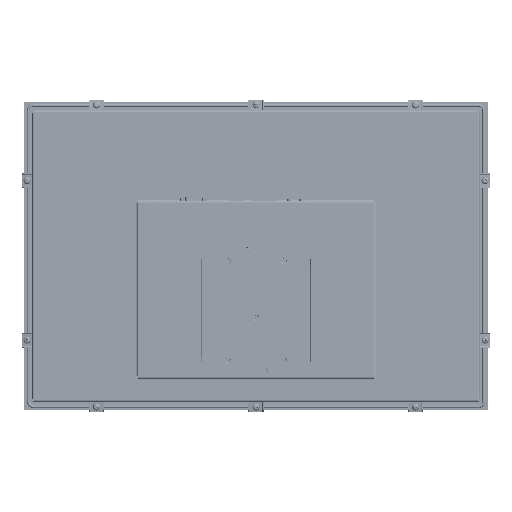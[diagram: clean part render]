
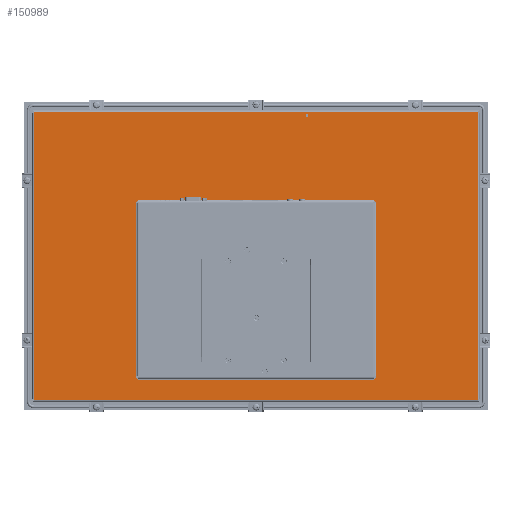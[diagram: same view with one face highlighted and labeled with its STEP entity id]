
A CAD part, front view. The second image highlights one B-rep face of the part: STEP entity #150989.
In plain terms, the highlighted planar face has unit normal (0, -1, 0).
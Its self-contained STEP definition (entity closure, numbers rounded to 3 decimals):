
#2499 = DIRECTION ( 'NONE',  ( 0., 0., -1. ) ) ;
#2583 = LINE ( 'NONE', #118642, #101157 ) ;
#5312 = ORIENTED_EDGE ( 'NONE', *, *, #78977, .T. ) ;
#8588 = ORIENTED_EDGE ( 'NONE', *, *, #181386, .T. ) ;
#9871 = LINE ( 'NONE', #125981, #124488 ) ;
#11561 = AXIS2_PLACEMENT_3D ( 'NONE', #110765, #24146, #139305 ) ;
#11647 = DIRECTION ( 'NONE',  ( 0., 0., 1. ) ) ;
#13027 = CARTESIAN_POINT ( 'NONE',  ( 135.25, -10.6, -132.548 ) ) ;
#13336 = VERTEX_POINT ( 'NONE', #170618 ) ;
#13895 = CARTESIAN_POINT ( 'NONE',  ( -250.7, -10.6, 4.952 ) ) ;
#15431 = EDGE_LOOP ( 'NONE', ( #36998, #8588, #166087, #131293, #26841, #135208, #142511, #65103 ) ) ;
#15572 = LINE ( 'NONE', #73608, #87065 ) ;
#17658 = CARTESIAN_POINT ( 'NONE',  ( -250.7, -10.6, 167.652 ) ) ;
#17667 = CARTESIAN_POINT ( 'NONE',  ( -135.25, -10.6, 65.952 ) ) ;
#17793 = LINE ( 'NONE', #130045, #25601 ) ;
#19127 = LINE ( 'NONE', #22864, #145758 ) ;
#19524 = EDGE_CURVE ( 'NONE', #182403, #146964, #147165, .T. ) ;
#19900 = VERTEX_POINT ( 'NONE', #179228 ) ;
#20640 = VECTOR ( 'NONE', #11647, 1000. ) ;
#21362 = FACE_OUTER_BOUND ( 'NONE', #15431, .T. ) ;
#22864 = CARTESIAN_POINT ( 'NONE',  ( 136.375, -10.6, -131.423 ) ) ;
#23468 = VECTOR ( 'NONE', #27249, 1000. ) ;
#23832 = VECTOR ( 'NONE', #2499, 1000. ) ;
#24146 = DIRECTION ( 'NONE',  ( 0., 1., 0. ) ) ;
#25513 = VERTEX_POINT ( 'NONE', #142668 ) ;
#25601 = VECTOR ( 'NONE', #118625, 1000. ) ;
#25687 = CARTESIAN_POINT ( 'NONE',  ( -250.7, -10.6, 4.952 ) ) ;
#26841 = ORIENTED_EDGE ( 'NONE', *, *, #19524, .T. ) ;
#27249 = DIRECTION ( 'NONE',  ( 0., 0., -1. ) ) ;
#35201 = VERTEX_POINT ( 'NONE', #38470 ) ;
#36321 = VECTOR ( 'NONE', #174643, 1000. ) ;
#36941 = EDGE_LOOP ( 'NONE', ( #46937, #5312, #59018, #74881, #155413, #84940, #151990, #49820 ) ) ;
#36998 = ORIENTED_EDGE ( 'NONE', *, *, #76825, .T. ) ;
#38470 = CARTESIAN_POINT ( 'NONE',  ( 250.7, -10.6, -157.748 ) ) ;
#38709 = EDGE_CURVE ( 'NONE', #91961, #182403, #159421, .T. ) ;
#39986 = VERTEX_POINT ( 'NONE', #72173 ) ;
#40320 = VECTOR ( 'NONE', #175184, 1000. ) ;
#43799 = CARTESIAN_POINT ( 'NONE',  ( 250.7, -10.6, 4.952 ) ) ;
#45267 = CARTESIAN_POINT ( 'NONE',  ( 0., -10.6, 167.652 ) ) ;
#45674 = VECTOR ( 'NONE', #53313, 1000. ) ;
#46937 = ORIENTED_EDGE ( 'NONE', *, *, #151673, .T. ) ;
#47000 = DIRECTION ( 'NONE',  ( 0., 0., 1. ) ) ;
#47695 = VECTOR ( 'NONE', #47000, 1000. ) ;
#49820 = ORIENTED_EDGE ( 'NONE', *, *, #171753, .T. ) ;
#53313 = DIRECTION ( 'NONE',  ( 0., 0., -1. ) ) ;
#53565 = LINE ( 'NONE', #56368, #20640 ) ;
#56368 = CARTESIAN_POINT ( 'NONE',  ( -135.25, -10.6, -134.548 ) ) ;
#56754 = CARTESIAN_POINT ( 'NONE',  ( -250.7, -10.6, 4.952 ) ) ;
#58486 = CARTESIAN_POINT ( 'NONE',  ( 250.7, -10.6, 4.952 ) ) ;
#59018 = ORIENTED_EDGE ( 'NONE', *, *, #80263, .T. ) ;
#59585 = LINE ( 'NONE', #115761, #23832 ) ;
#61170 = VERTEX_POINT ( 'NONE', #13027 ) ;
#63278 = VERTEX_POINT ( 'NONE', #132159 ) ;
#65103 = ORIENTED_EDGE ( 'NONE', *, *, #69873, .T. ) ;
#69554 = DIRECTION ( 'NONE',  ( -1., 0., 0. ) ) ;
#69873 = EDGE_CURVE ( 'NONE', #163104, #143032, #168453, .T. ) ;
#72173 = CARTESIAN_POINT ( 'NONE',  ( 133.25, -10.6, 67.952 ) ) ;
#73345 = LINE ( 'NONE', #43799, #40320 ) ;
#73608 = CARTESIAN_POINT ( 'NONE',  ( 250.7, -10.6, 4.952 ) ) ;
#74432 = LINE ( 'NONE', #173458, #160558 ) ;
#74881 = ORIENTED_EDGE ( 'NONE', *, *, #119431, .T. ) ;
#76825 = EDGE_CURVE ( 'NONE', #143032, #35201, #17793, .T. ) ;
#78354 = CARTESIAN_POINT ( 'NONE',  ( 133.25, -10.6, -134.548 ) ) ;
#78977 = EDGE_CURVE ( 'NONE', #39986, #90026, #74432, .T. ) ;
#80185 = DIRECTION ( 'NONE',  ( 0., 0., 1. ) ) ;
#80263 = EDGE_CURVE ( 'NONE', #90026, #61170, #59585, .T. ) ;
#84940 = ORIENTED_EDGE ( 'NONE', *, *, #166644, .T. ) ;
#87065 = VECTOR ( 'NONE', #80185, 1000. ) ;
#88789 = CARTESIAN_POINT ( 'NONE',  ( -250.7, -10.6, -157.748 ) ) ;
#90026 = VERTEX_POINT ( 'NONE', #93873 ) ;
#90675 = VERTEX_POINT ( 'NONE', #148105 ) ;
#91961 = VERTEX_POINT ( 'NONE', #165023 ) ;
#92757 = PLANE ( 'NONE',  #11561 ) ;
#93702 = FACE_BOUND ( 'NONE', #36941, .T. ) ;
#93873 = CARTESIAN_POINT ( 'NONE',  ( 135.25, -10.6, 65.952 ) ) ;
#96273 = LINE ( 'NONE', #142807, #177367 ) ;
#98471 = EDGE_CURVE ( 'NONE', #146964, #25513, #144305, .T. ) ;
#101157 = VECTOR ( 'NONE', #133843, 1000. ) ;
#109681 = CARTESIAN_POINT ( 'NONE',  ( -250.7, -10.6, -156.777 ) ) ;
#110765 = CARTESIAN_POINT ( 'NONE',  ( 0., -10.6, 4.952 ) ) ;
#113880 = DIRECTION ( 'NONE',  ( 0., 0., -1. ) ) ;
#115444 = DIRECTION ( 'NONE',  ( 0.707, 0., -0.707 ) ) ;
#115761 = CARTESIAN_POINT ( 'NONE',  ( 135.25, -10.6, -134.548 ) ) ;
#118625 = DIRECTION ( 'NONE',  ( 1., 0., 0. ) ) ;
#118642 = CARTESIAN_POINT ( 'NONE',  ( -136.375, -10.6, -131.423 ) ) ;
#119431 = EDGE_CURVE ( 'NONE', #61170, #140048, #19127, .T. ) ;
#124488 = VECTOR ( 'NONE', #184029, 1000. ) ;
#125658 = EDGE_CURVE ( 'NONE', #140048, #13336, #96273, .T. ) ;
#125981 = CARTESIAN_POINT ( 'NONE',  ( -98.125, -10.6, 103.077 ) ) ;
#128942 = CARTESIAN_POINT ( 'NONE',  ( -135.25, -10.6, 67.952 ) ) ;
#130045 = CARTESIAN_POINT ( 'NONE',  ( 0., -10.6, -157.748 ) ) ;
#130855 = LINE ( 'NONE', #128942, #36321 ) ;
#131293 = ORIENTED_EDGE ( 'NONE', *, *, #38709, .T. ) ;
#132159 = CARTESIAN_POINT ( 'NONE',  ( 250.7, -10.6, -156.777 ) ) ;
#133843 = DIRECTION ( 'NONE',  ( -0.707, 0., 0.707 ) ) ;
#135208 = ORIENTED_EDGE ( 'NONE', *, *, #98471, .T. ) ;
#139305 = DIRECTION ( 'NONE',  ( -1., 0., 0. ) ) ;
#140048 = VERTEX_POINT ( 'NONE', #78354 ) ;
#140088 = EDGE_CURVE ( 'NONE', #90675, #175466, #53565, .T. ) ;
#140861 = LINE ( 'NONE', #25687, #45674 ) ;
#142511 = ORIENTED_EDGE ( 'NONE', *, *, #165151, .T. ) ;
#142668 = CARTESIAN_POINT ( 'NONE',  ( -250.7, -10.6, 166.681 ) ) ;
#142807 = CARTESIAN_POINT ( 'NONE',  ( -135.25, -10.6, -134.548 ) ) ;
#143032 = VERTEX_POINT ( 'NONE', #88789 ) ;
#144305 = LINE ( 'NONE', #56754, #160182 ) ;
#145758 = VECTOR ( 'NONE', #167550, 1000. ) ;
#146964 = VERTEX_POINT ( 'NONE', #17658 ) ;
#147165 = LINE ( 'NONE', #45267, #163837 ) ;
#148105 = CARTESIAN_POINT ( 'NONE',  ( -135.25, -10.6, -132.548 ) ) ;
#150989 = ADVANCED_FACE ( 'NONE', ( #21362, #93702 ), #92757, .F. ) ;
#151673 = EDGE_CURVE ( 'NONE', #19900, #39986, #130855, .T. ) ;
#151990 = ORIENTED_EDGE ( 'NONE', *, *, #140088, .T. ) ;
#155413 = ORIENTED_EDGE ( 'NONE', *, *, #125658, .T. ) ;
#159421 = LINE ( 'NONE', #58486, #47695 ) ;
#160182 = VECTOR ( 'NONE', #113880, 1000. ) ;
#160558 = VECTOR ( 'NONE', #115444, 1000. ) ;
#161093 = EDGE_CURVE ( 'NONE', #63278, #91961, #15572, .T. ) ;
#161485 = DIRECTION ( 'NONE',  ( -1., 0., 0. ) ) ;
#163104 = VERTEX_POINT ( 'NONE', #109681 ) ;
#163837 = VECTOR ( 'NONE', #161485, 1000. ) ;
#165023 = CARTESIAN_POINT ( 'NONE',  ( 250.7, -10.6, 166.681 ) ) ;
#165151 = EDGE_CURVE ( 'NONE', #25513, #163104, #140861, .T. ) ;
#166087 = ORIENTED_EDGE ( 'NONE', *, *, #161093, .T. ) ;
#166644 = EDGE_CURVE ( 'NONE', #13336, #90675, #2583, .T. ) ;
#167550 = DIRECTION ( 'NONE',  ( -0.707, 0., -0.707 ) ) ;
#168453 = LINE ( 'NONE', #13895, #23468 ) ;
#170618 = CARTESIAN_POINT ( 'NONE',  ( -133.25, -10.6, -134.548 ) ) ;
#171753 = EDGE_CURVE ( 'NONE', #175466, #19900, #9871, .T. ) ;
#173458 = CARTESIAN_POINT ( 'NONE',  ( 98.125, -10.6, 103.077 ) ) ;
#174643 = DIRECTION ( 'NONE',  ( 1., 0., 0. ) ) ;
#175184 = DIRECTION ( 'NONE',  ( 0., 0., 1. ) ) ;
#175466 = VERTEX_POINT ( 'NONE', #17667 ) ;
#177367 = VECTOR ( 'NONE', #69554, 1000. ) ;
#179228 = CARTESIAN_POINT ( 'NONE',  ( -133.25, -10.6, 67.952 ) ) ;
#179337 = CARTESIAN_POINT ( 'NONE',  ( 250.7, -10.6, 167.652 ) ) ;
#181386 = EDGE_CURVE ( 'NONE', #35201, #63278, #73345, .T. ) ;
#182403 = VERTEX_POINT ( 'NONE', #179337 ) ;
#184029 = DIRECTION ( 'NONE',  ( 0.707, 0., 0.707 ) ) ;
